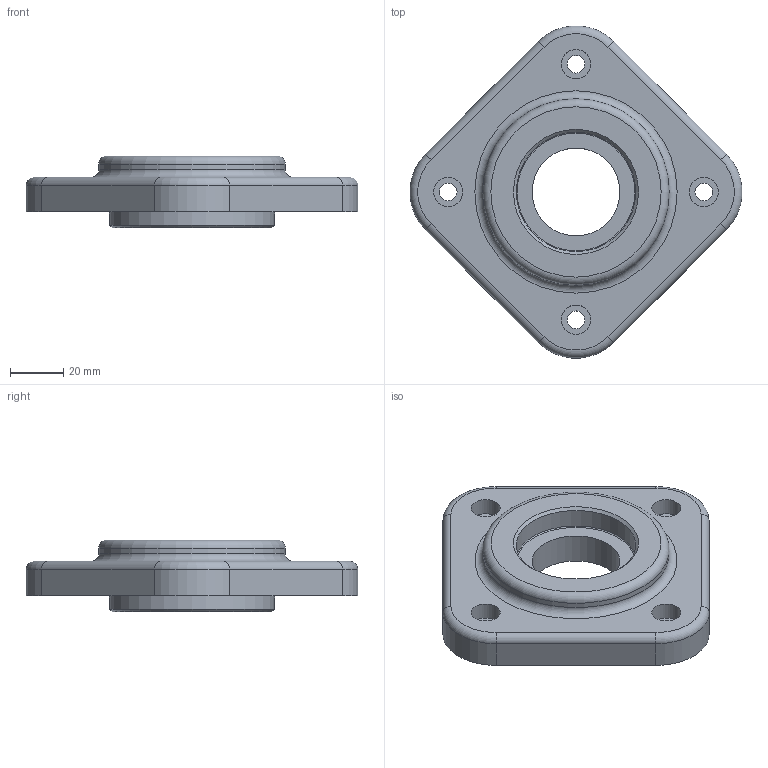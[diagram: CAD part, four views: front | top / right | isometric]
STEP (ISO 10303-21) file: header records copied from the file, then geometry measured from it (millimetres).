
FILE_DESCRIPTION(/* description */ (''),/* implementation_level */ '2;1');
FILE_NAME(/* name */ '',/* time_stamp */ '2026-07-01T11:13:21+09:00',/* author */ ('jhkim'),/* organization */ (''),/* preprocessor_version */ 'ST-DEVELOPER v20.1',/* originating_system */ 'Autodesk Inventor 2027',/* authorisation */ '');
FILE_SCHEMA (('AUTOMOTIVE_DESIGN { 1 0 10303 214 3 1 1 }'));
Length unit declared in the file: millimetre
Products named in the file (1): 커버
Bounding box: 124.7 x 124.7 x 27 mm (x, y, z)
Volume: 131166.2 mm3; surface area: 28544.7 mm2
Topology: 1 solids, 1 shells, 45 faces, 92 edges, 57 vertices
Faces by surface type: cylinder 21, plane 14, torus 8, cone 2
Full cylindrical faces by diameter (mm): 6.6 x4, 11 x4, 33 x1, 45 x1, 54 x1, 62 x1, 70 x1
Entity records: 1262 total; most frequent: DIRECTION 241, CARTESIAN_POINT 195, ORIENTED_EDGE 184, AXIS2_PLACEMENT_3D 103, EDGE_CURVE 92, EDGE_LOOP 63, CIRCLE 57, VERTEX_POINT 57
